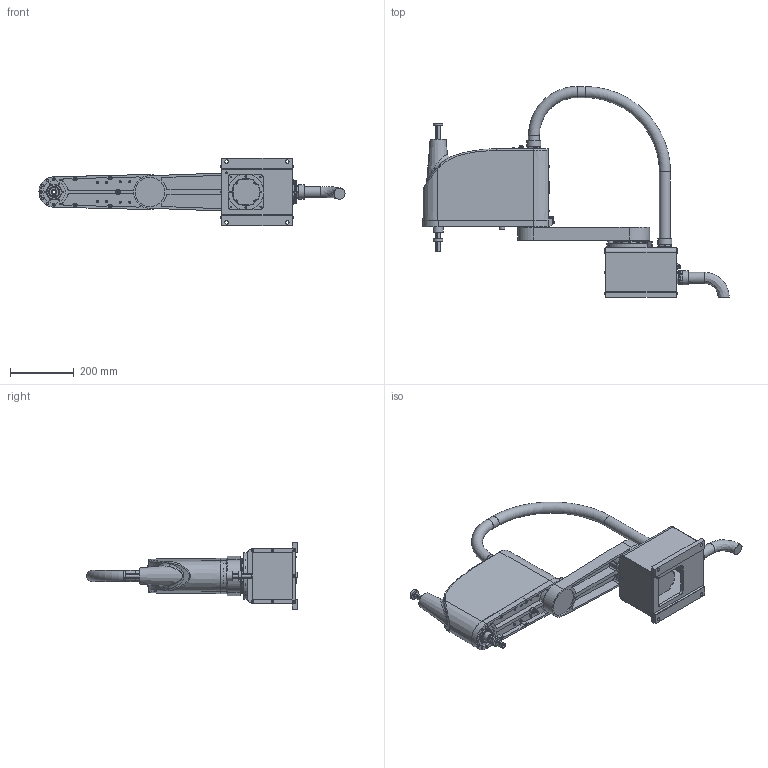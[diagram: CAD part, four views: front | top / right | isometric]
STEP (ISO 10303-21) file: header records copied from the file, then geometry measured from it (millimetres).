
FILE_DESCRIPTION (( 'STEP AP203' ), '1' );
FILE_NAME ('AR6220-E_外发.STEP', '2019-12-25T08:34:54', ( '微软用户' ), ( '微软中国' ), 'SwSTEP 2.0', 'SolidWorks 2018', '' );
FILE_SCHEMA (( 'CONFIG_CONTROL_DESIGN' ));
Length unit declared in the file: millimetre
Products named in the file (6): AR6215-E_X; AR6215-E_Y; AR6220-E_Z+R; AR6220-E_俋楷; AR6215-E_菁釱; AR6215-援盄奪
Assembly tree (5 placements, depth 2):
  AR6220-E_俋楷
    AR6215-E_菁釱
    AR6215-E_X
    AR6215-E_Y
    AR6215-援盄奪
    AR6220-E_Z+R
Bounding box: 958.25 x 660.27 x 210 mm (x, y, z)
Surface area: 1142983.8 mm2 (no closed solid volume)
Topology: 0 solids, 262 shells, 1703 faces, 5170 edges, 3719 vertices
Faces by surface type: plane 1043, cylinder 431, cone 93, torus 75, bspline 38, sphere 23
Full cylindrical faces by diameter (mm): 2.5 x2, 3 x4, 3.3 x10, 3.4 x16, 3.5 x16, 4 x16, 4.2 x4, 4.5 x23, 5 x16, 5.5 x26, 6 x8, 6.5 x4, 6.6 x24, 7 x24, 8 x21, 8.5 x7, 9 x4, 10 x14, 11 x10, 12 x4, 14 x4, 17 x3, 19 x1, 22.62 x1, 27 x1, 28 x2, 29 x1, 31 x1, 34 x1, 34.5 x4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
Entity records: 87682 total; most frequent: CARTESIAN_POINT 44814, DIRECTION 8213, ORIENTED_EDGE 7121, EDGE_CURVE 4542, VERTEX_POINT 3563, AXIS2_PLACEMENT_3D 2793, LINE 2627, VECTOR 2627
